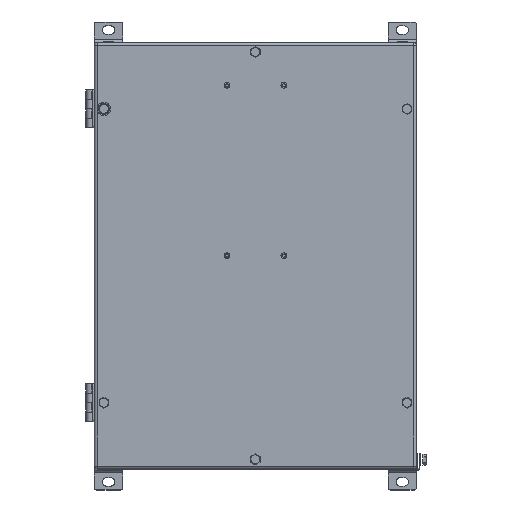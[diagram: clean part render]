
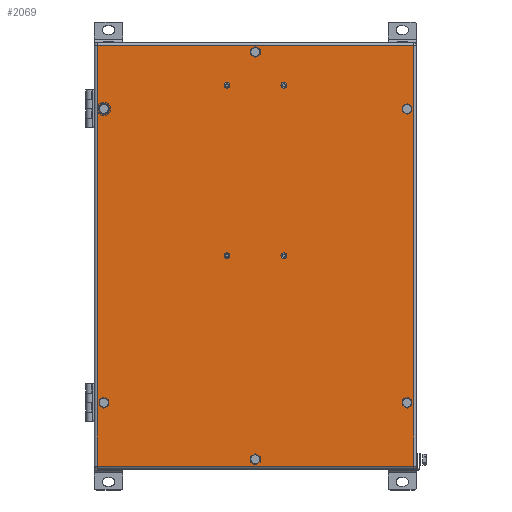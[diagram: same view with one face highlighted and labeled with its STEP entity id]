
A CAD part, top view. The second image highlights one B-rep face of the part: STEP entity #2069.
In plain terms, the highlighted planar face has unit normal (0, 0, 1).
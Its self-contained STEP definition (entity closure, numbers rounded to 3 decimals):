
#1477=CARTESIAN_POINT('',(167.,-222.,150.));
#1478=VERTEX_POINT('',#1477);
#1544=CARTESIAN_POINT('',(167.,222.,150.));
#1545=VERTEX_POINT('',#1544);
#1611=CARTESIAN_POINT('',(-167.,-222.,150.));
#1612=VERTEX_POINT('',#1611);
#1684=CARTESIAN_POINT('',(167.,-222.,150.));
#1685=DIRECTION('',(-1.0,0.0,0.0));
#1686=VECTOR('',#1685,334.);
#1687=LINE('',#1684,#1686);
#1688=EDGE_CURVE('',#1478,#1612,#1687,.T.);
#1700=CARTESIAN_POINT('',(-167.0,222.,150.));
#1701=VERTEX_POINT('',#1700);
#1773=CARTESIAN_POINT('',(-167.,-222.0,150.));
#1774=DIRECTION('',(0.0,1.0,0.0));
#1775=VECTOR('',#1774,444.0);
#1776=LINE('',#1773,#1775);
#1777=EDGE_CURVE('',#1612,#1701,#1776,.T.);
#1795=CARTESIAN_POINT('',(-167.0,222.,150.));
#1796=DIRECTION('',(1.0,0.0,0.0));
#1797=VECTOR('',#1796,334.);
#1798=LINE('',#1795,#1797);
#1799=EDGE_CURVE('',#1701,#1545,#1798,.T.);
#1817=CARTESIAN_POINT('',(167.,222.0,150.));
#1818=DIRECTION('',(0.0,-1.0,0.0));
#1819=VECTOR('',#1818,444.0);
#1820=LINE('',#1817,#1819);
#1821=EDGE_CURVE('',#1545,#1478,#1820,.T.);
#1948=CARTESIAN_POINT('',(0.,0.,150.));
#1949=DIRECTION('',(0.0,0.0,1.0));
#1950=DIRECTION('',(1.0,0.0,0.0));
#1951=AXIS2_PLACEMENT_3D('',#1948,#1949,#1950);
#1952=PLANE('',#1951);
#1953=ORIENTED_EDGE('',*,*,#1688,.F.);
#1954=ORIENTED_EDGE('',*,*,#1821,.F.);
#1955=ORIENTED_EDGE('',*,*,#1799,.F.);
#1956=ORIENTED_EDGE('',*,*,#1777,.F.);
#1957=EDGE_LOOP('',(#1953,#1954,#1955,#1956));
#1958=FACE_OUTER_BOUND('',#1957,.T.);
#1959=CARTESIAN_POINT('',(-156.25,155.,150.));
#1960=VERTEX_POINT('',#1959);
#1961=CARTESIAN_POINT('',(-160.0,155.,150.));
#1962=DIRECTION('',(0.0,0.0,-1.0));
#1963=DIRECTION('',(-1.0,0.0,0.0));
#1964=AXIS2_PLACEMENT_3D('',#1961,#1962,#1963);
#1965=CIRCLE('',#1964,3.75);
#1966=EDGE_CURVE('',#1960,#1960,#1965,.T.);
#1967=ORIENTED_EDGE('',*,*,#1966,.T.);
#1968=EDGE_LOOP('',(#1967));
#1969=FACE_BOUND('',#1968,.T.);
#1970=CARTESIAN_POINT('',(163.75,155.0,150.));
#1971=VERTEX_POINT('',#1970);
#1972=CARTESIAN_POINT('',(160.0,155.0,150.));
#1973=DIRECTION('',(0.0,0.0,-1.0));
#1974=DIRECTION('',(-1.0,0.0,0.0));
#1975=AXIS2_PLACEMENT_3D('',#1972,#1973,#1974);
#1976=CIRCLE('',#1975,3.75);
#1977=EDGE_CURVE('',#1971,#1971,#1976,.T.);
#1978=ORIENTED_EDGE('',*,*,#1977,.T.);
#1979=EDGE_LOOP('',(#1978));
#1980=FACE_BOUND('',#1979,.T.);
#1981=CARTESIAN_POINT('',(-156.25,-155.,150.));
#1982=VERTEX_POINT('',#1981);
#1983=CARTESIAN_POINT('',(-160.,-155.,150.));
#1984=DIRECTION('',(0.0,0.0,-1.0));
#1985=DIRECTION('',(-1.0,0.0,0.0));
#1986=AXIS2_PLACEMENT_3D('',#1983,#1984,#1985);
#1987=CIRCLE('',#1986,3.75);
#1988=EDGE_CURVE('',#1982,#1982,#1987,.T.);
#1989=ORIENTED_EDGE('',*,*,#1988,.T.);
#1990=EDGE_LOOP('',(#1989));
#1991=FACE_BOUND('',#1990,.T.);
#1992=CARTESIAN_POINT('',(163.75,-155.0,150.));
#1993=VERTEX_POINT('',#1992);
#1994=CARTESIAN_POINT('',(160.,-155.0,150.));
#1995=DIRECTION('',(0.0,0.0,-1.0));
#1996=DIRECTION('',(-1.0,0.0,0.0));
#1997=AXIS2_PLACEMENT_3D('',#1994,#1995,#1996);
#1998=CIRCLE('',#1997,3.75);
#1999=EDGE_CURVE('',#1993,#1993,#1998,.T.);
#2000=ORIENTED_EDGE('',*,*,#1999,.T.);
#2001=EDGE_LOOP('',(#2000));
#2002=FACE_BOUND('',#2001,.T.);
#2003=CARTESIAN_POINT('',(3.75,215.,150.));
#2004=VERTEX_POINT('',#2003);
#2005=CARTESIAN_POINT('',(0.,215.,150.));
#2006=DIRECTION('',(0.0,0.0,-1.0));
#2007=DIRECTION('',(-1.0,0.0,0.0));
#2008=AXIS2_PLACEMENT_3D('',#2005,#2006,#2007);
#2009=CIRCLE('',#2008,3.75);
#2010=EDGE_CURVE('',#2004,#2004,#2009,.T.);
#2011=ORIENTED_EDGE('',*,*,#2010,.T.);
#2012=EDGE_LOOP('',(#2011));
#2013=FACE_BOUND('',#2012,.T.);
#2014=CARTESIAN_POINT('',(3.75,-215.,150.));
#2015=VERTEX_POINT('',#2014);
#2016=CARTESIAN_POINT('',(0.,-215.,150.));
#2017=DIRECTION('',(0.0,0.0,-1.0));
#2018=DIRECTION('',(-1.0,0.0,0.0));
#2019=AXIS2_PLACEMENT_3D('',#2016,#2017,#2018);
#2020=CIRCLE('',#2019,3.75);
#2021=EDGE_CURVE('',#2015,#2015,#2020,.T.);
#2022=ORIENTED_EDGE('',*,*,#2021,.T.);
#2023=EDGE_LOOP('',(#2022));
#2024=FACE_BOUND('',#2023,.T.);
#2025=CARTESIAN_POINT('',(33.05,180.,150.));
#2026=VERTEX_POINT('',#2025);
#2027=CARTESIAN_POINT('',(30.,180.,150.));
#2028=DIRECTION('',(0.0,0.0,-1.0));
#2029=DIRECTION('',(-1.0,0.0,0.0));
#2030=AXIS2_PLACEMENT_3D('',#2027,#2028,#2029);
#2031=CIRCLE('',#2030,3.05);
#2032=EDGE_CURVE('',#2026,#2026,#2031,.T.);
#2033=ORIENTED_EDGE('',*,*,#2032,.T.);
#2034=EDGE_LOOP('',(#2033));
#2035=FACE_BOUND('',#2034,.T.);
#2036=CARTESIAN_POINT('',(-26.95,180.,150.));
#2037=VERTEX_POINT('',#2036);
#2038=CARTESIAN_POINT('',(-30.,180.,150.));
#2039=DIRECTION('',(0.0,0.0,-1.0));
#2040=DIRECTION('',(-1.0,0.0,0.0));
#2041=AXIS2_PLACEMENT_3D('',#2038,#2039,#2040);
#2042=CIRCLE('',#2041,3.05);
#2043=EDGE_CURVE('',#2037,#2037,#2042,.T.);
#2044=ORIENTED_EDGE('',*,*,#2043,.T.);
#2045=EDGE_LOOP('',(#2044));
#2046=FACE_BOUND('',#2045,.T.);
#2047=CARTESIAN_POINT('',(-26.95,0.,150.));
#2048=VERTEX_POINT('',#2047);
#2049=CARTESIAN_POINT('',(-30.,0.,150.));
#2050=DIRECTION('',(0.0,0.0,-1.0));
#2051=DIRECTION('',(-1.0,0.0,0.0));
#2052=AXIS2_PLACEMENT_3D('',#2049,#2050,#2051);
#2053=CIRCLE('',#2052,3.05);
#2054=EDGE_CURVE('',#2048,#2048,#2053,.T.);
#2055=ORIENTED_EDGE('',*,*,#2054,.T.);
#2056=EDGE_LOOP('',(#2055));
#2057=FACE_BOUND('',#2056,.T.);
#2058=CARTESIAN_POINT('',(33.05,0.,150.));
#2059=VERTEX_POINT('',#2058);
#2060=CARTESIAN_POINT('',(30.,0.,150.));
#2061=DIRECTION('',(0.0,0.0,-1.0));
#2062=DIRECTION('',(-1.0,0.0,0.0));
#2063=AXIS2_PLACEMENT_3D('',#2060,#2061,#2062);
#2064=CIRCLE('',#2063,3.05);
#2065=EDGE_CURVE('',#2059,#2059,#2064,.T.);
#2066=ORIENTED_EDGE('',*,*,#2065,.T.);
#2067=EDGE_LOOP('',(#2066));
#2068=FACE_BOUND('',#2067,.T.);
#2069=ADVANCED_FACE('',(#1958,#1969,#1980,#1991,#2002,#2013,#2024,#2035,#2046,#2057,#2068),#1952,.T.);
